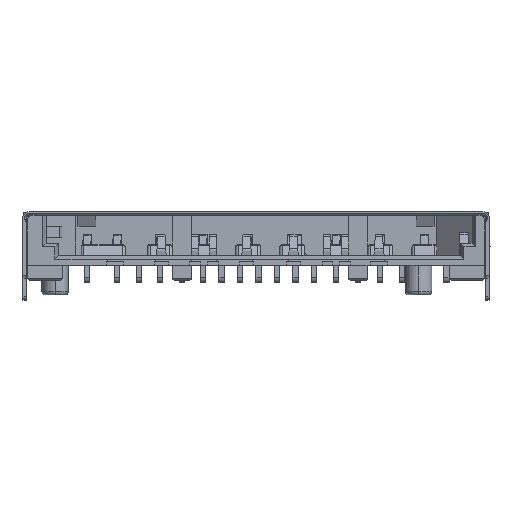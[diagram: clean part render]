
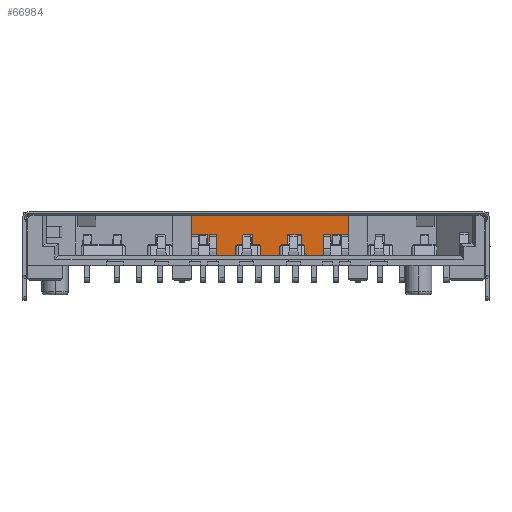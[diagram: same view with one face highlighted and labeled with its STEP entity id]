
A CAD part, top view. The second image highlights one B-rep face of the part: STEP entity #66984.
In plain terms, the highlighted planar face has unit normal (0, 0, 1).
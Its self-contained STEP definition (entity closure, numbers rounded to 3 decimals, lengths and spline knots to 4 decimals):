
#55470=DIRECTION('',(-1.,0.,0.));
#55471=VECTOR('',#55470,8.9);
#55472=CARTESIAN_POINT('',(5.25,2.63,-2.));
#55473=LINE('',#55472,#55471);
#55798=DIRECTION('',(1.,0.,0.));
#55799=VECTOR('',#55798,1.65);
#55800=CARTESIAN_POINT('',(-3.65,0.35,-2.));
#55801=LINE('',#55800,#55799);
#55814=DIRECTION('',(1.,0.,0.));
#55815=VECTOR('',#55814,6.65);
#55816=CARTESIAN_POINT('',(-1.4,0.35,-2.));
#55817=LINE('',#55816,#55815);
#57306=DIRECTION('',(0.,-1.,0.));
#57307=VECTOR('',#57306,2.28);
#57308=CARTESIAN_POINT('',(5.25,2.63,-2.));
#57309=LINE('',#57308,#57307);
#57310=DIRECTION('',(0.,-1.,0.));
#57311=VECTOR('',#57310,0.2);
#57312=CARTESIAN_POINT('',(-1.4,0.35,-2.));
#57313=LINE('',#57312,#57311);
#57314=DIRECTION('',(0.,1.,0.));
#57315=VECTOR('',#57314,0.2);
#57316=CARTESIAN_POINT('',(-2.,0.15,-2.));
#57317=LINE('',#57316,#57315);
#57334=DIRECTION('',(1.,0.,0.));
#57335=VECTOR('',#57334,0.6);
#57336=CARTESIAN_POINT('',(-2.,0.15,-2.));
#57337=LINE('',#57336,#57335);
#57346=DIRECTION('',(0.,-1.,0.));
#57347=VECTOR('',#57346,2.28);
#57348=CARTESIAN_POINT('',(-3.65,2.63,-2.));
#57349=LINE('',#57348,#57347);
#62043=CARTESIAN_POINT('',(5.25,2.63,-2.));
#62044=VERTEX_POINT('',#62043);
#62045=CARTESIAN_POINT('',(-3.65,2.63,-2.));
#62046=VERTEX_POINT('',#62045);
#62183=CARTESIAN_POINT('',(-3.65,0.35,-2.));
#62184=VERTEX_POINT('',#62183);
#62185=CARTESIAN_POINT('',(-2.,0.35,-2.));
#62186=VERTEX_POINT('',#62185);
#62191=CARTESIAN_POINT('',(-1.4,0.35,-2.));
#62192=VERTEX_POINT('',#62191);
#62193=CARTESIAN_POINT('',(5.25,0.35,-2.));
#62194=VERTEX_POINT('',#62193);
#62757=CARTESIAN_POINT('',(-1.4,0.15,-2.));
#62758=VERTEX_POINT('',#62757);
#62759=CARTESIAN_POINT('',(-2.,0.15,-2.));
#62760=VERTEX_POINT('',#62759);
#66965=CARTESIAN_POINT('',(0.8,1.39,-2.));
#66966=DIRECTION('',(0.,0.,1.));
#66967=DIRECTION('',(-1.,0.,0.));
#66968=AXIS2_PLACEMENT_3D('',#66965,#66966,#66967);
#66969=PLANE('',#66968);
#66970=ORIENTED_EDGE('',*,*,#66650,.T.);
#66971=ORIENTED_EDGE('',*,*,#64929,.F.);
#66973=ORIENTED_EDGE('',*,*,#66972,.T.);
#66975=ORIENTED_EDGE('',*,*,#66974,.F.);
#66977=ORIENTED_EDGE('',*,*,#66976,.T.);
#66978=ORIENTED_EDGE('',*,*,#64921,.F.);
#66980=ORIENTED_EDGE('',*,*,#66979,.F.);
#66981=ORIENTED_EDGE('',*,*,#64695,.F.);
#66982=EDGE_LOOP('',(#66970,#66971,#66973,#66975,#66977,#66978,#66980,#66981));
#66983=FACE_OUTER_BOUND('',#66982,.F.);
#64695=EDGE_CURVE('',#62044,#62046,#55473,.T.);
#64921=EDGE_CURVE('',#62184,#62186,#55801,.T.);
#64929=EDGE_CURVE('',#62192,#62194,#55817,.T.);
#66650=EDGE_CURVE('',#62044,#62194,#57309,.T.);
#66972=EDGE_CURVE('',#62192,#62758,#57313,.T.);
#66974=EDGE_CURVE('',#62760,#62758,#57337,.T.);
#66976=EDGE_CURVE('',#62760,#62186,#57317,.T.);
#66979=EDGE_CURVE('',#62046,#62184,#57349,.T.);
#66984=ADVANCED_FACE('',(#66983),#66969,.T.);
